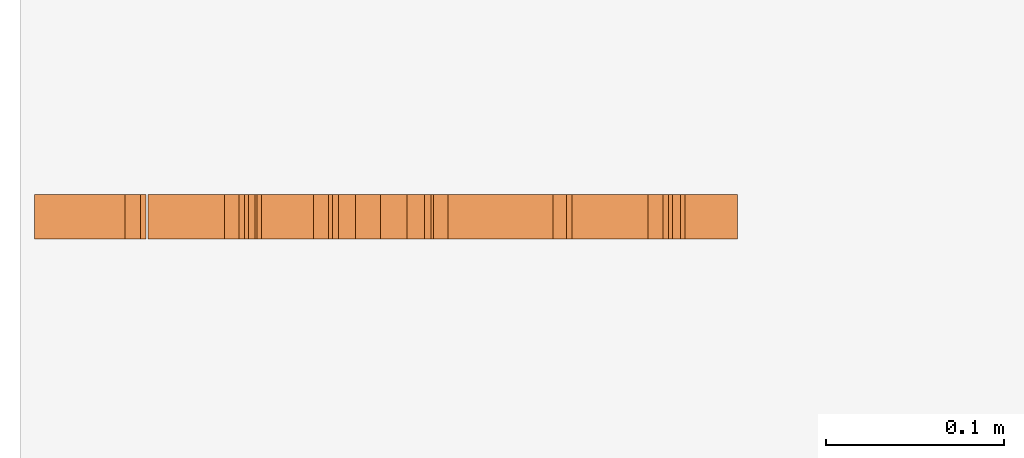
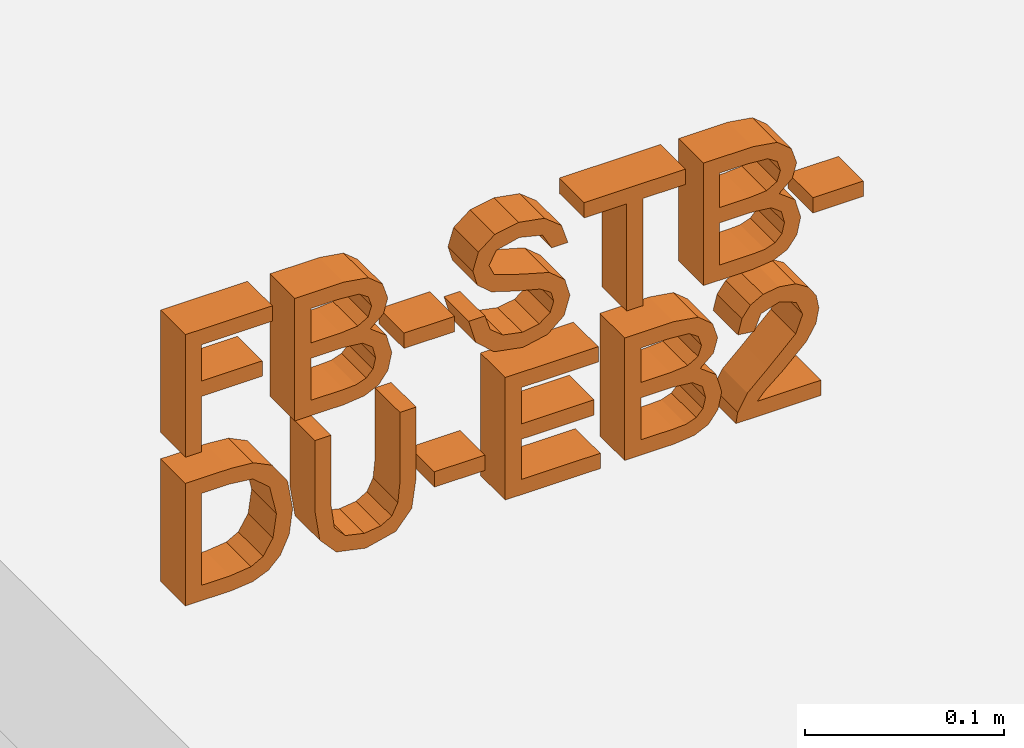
# Not in any storey, part 2 of 2: 1 proxy.
"""IFC4 model written with IfcOpenShell, lengths in metres."""

from ifc_helpers import new_model, entity, si_unit, converted_unit, derived_unit, direction, frame, origin, place, context, subcontext, project, spatial, indexed_curve, outline, extrude, type_object, element, save


model = new_model("IFC4")

# Units and contexts
model_context = context("Model", 3, precision=1e-05, world=origin(), true_north=direction((6.123031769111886e-17, 1.0)))
body_context = subcontext(model_context, "Body", "Model", "MODEL_VIEW")
ifc_project = project(units=[si_unit("LENGTHUNIT", "METRE"), si_unit("AREAUNIT", "SQUARE_METRE"), si_unit("VOLUMEUNIT", "CUBIC_METRE"), converted_unit("PLANEANGLEUNIT", "DEGREE", entity("IfcRatioMeasure", 0.017453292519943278), si_unit("PLANEANGLEUNIT", "RADIAN"), dimensions=[0, 0, 0, 0, 0, 0, 0]), si_unit("MASSUNIT", "GRAM", prefix="KILO"), derived_unit("MASSDENSITYUNIT", [(si_unit("MASSUNIT", "GRAM", prefix="KILO"), 1), (si_unit("LENGTHUNIT", "METRE"), -3)]), derived_unit("IONCONCENTRATIONUNIT", [(si_unit("MASSUNIT", "GRAM", prefix="KILO"), 1), (si_unit("LENGTHUNIT", "METRE"), -3)]), derived_unit("MOMENTOFINERTIAUNIT", [(si_unit("LENGTHUNIT", "METRE"), 4)]), si_unit("TIMEUNIT", "SECOND"), si_unit("FREQUENCYUNIT", "HERTZ"), si_unit("THERMODYNAMICTEMPERATUREUNIT", "DEGREE_CELSIUS"), derived_unit("THERMALTRANSMITTANCEUNIT", [(si_unit("MASSUNIT", "GRAM", prefix="KILO"), 1), (si_unit("THERMODYNAMICTEMPERATUREUNIT", "KELVIN"), -1), (si_unit("TIMEUNIT", "SECOND"), -3)]), derived_unit("THERMALCONDUCTANCEUNIT", [(si_unit("MASSUNIT", "GRAM", prefix="KILO"), 1), (si_unit("THERMODYNAMICTEMPERATUREUNIT", "KELVIN"), -1), (si_unit("TIMEUNIT", "SECOND"), -3), (si_unit("LENGTHUNIT", "METRE"), 1)]), derived_unit("VOLUMETRICFLOWRATEUNIT", [(si_unit("LENGTHUNIT", "METRE"), 3), (si_unit("TIMEUNIT", "SECOND"), -1)]), derived_unit("MASSFLOWRATEUNIT", [(si_unit("MASSUNIT", "GRAM", prefix="KILO"), 1), (si_unit("TIMEUNIT", "SECOND"), -1)]), derived_unit("ROTATIONALFREQUENCYUNIT", [(si_unit("TIMEUNIT", "SECOND"), -1)]), si_unit("ELECTRICCURRENTUNIT", "AMPERE"), si_unit("ELECTRICVOLTAGEUNIT", "VOLT"), si_unit("POWERUNIT", "WATT"), si_unit("FORCEUNIT", "NEWTON", prefix="KILO"), si_unit("ILLUMINANCEUNIT", "LUX"), si_unit("LUMINOUSFLUXUNIT", "LUMEN"), si_unit("LUMINOUSINTENSITYUNIT", "CANDELA"), derived_unit("USERDEFINED", [(si_unit("MASSUNIT", "GRAM", prefix="KILO"), -1), (si_unit("LENGTHUNIT", "METRE"), -2), (si_unit("TIMEUNIT", "SECOND"), 3), (si_unit("LUMINOUSFLUXUNIT", "LUMEN"), 1)]), derived_unit("USERDEFINED", [(si_unit("MASSUNIT", "GRAM", prefix="KILO"), 1), (si_unit("TIMEUNIT", "SECOND"), -3), (si_unit("LENGTHUNIT", "METRE"), 3), (si_unit("ELECTRICCURRENTUNIT", "AMPERE"), -2)]), derived_unit("SOUNDPOWERUNIT", [(si_unit("MASSUNIT", "GRAM", prefix="KILO"), 1), (si_unit("TIMEUNIT", "SECOND"), -3), (si_unit("LENGTHUNIT", "METRE"), 2)]), derived_unit("SOUNDPRESSUREUNIT", [(si_unit("MASSUNIT", "GRAM", prefix="KILO"), 1), (si_unit("LENGTHUNIT", "METRE"), -1), (si_unit("TIMEUNIT", "SECOND"), -2)]), derived_unit("LINEARVELOCITYUNIT", [(si_unit("LENGTHUNIT", "METRE"), 1), (si_unit("TIMEUNIT", "SECOND"), -1)]), si_unit("PRESSUREUNIT", "PASCAL"), derived_unit("USERDEFINED", [(si_unit("MASSUNIT", "GRAM", prefix="KILO"), 1), (si_unit("LENGTHUNIT", "METRE"), -2), (si_unit("TIMEUNIT", "SECOND"), -2)]), derived_unit("LINEARFORCEUNIT", [(si_unit("MASSUNIT", "GRAM", prefix="KILO"), 1), (si_unit("TIMEUNIT", "SECOND"), -2)]), derived_unit("PLANARFORCEUNIT", [(si_unit("MASSUNIT", "GRAM", prefix="KILO"), 1), (si_unit("LENGTHUNIT", "METRE"), -1), (si_unit("TIMEUNIT", "SECOND"), -2)]), derived_unit("SPECIFICHEATCAPACITYUNIT", [(si_unit("THERMODYNAMICTEMPERATUREUNIT", "KELVIN"), -1), (si_unit("LENGTHUNIT", "METRE"), 2), (si_unit("TIMEUNIT", "SECOND"), -2)]), derived_unit("HEATINGVALUEUNIT", [(si_unit("LENGTHUNIT", "METRE"), 2), (si_unit("TIMEUNIT", "SECOND"), -2)]), derived_unit("VAPORPERMEABILITYUNIT", [(si_unit("LENGTHUNIT", "METRE"), -1), (si_unit("TIMEUNIT", "SECOND"), 1)]), derived_unit("DYNAMICVISCOSITYUNIT", [(si_unit("MASSUNIT", "GRAM", prefix="KILO"), 1), (si_unit("TIMEUNIT", "SECOND"), -1), (si_unit("LENGTHUNIT", "METRE"), -1)]), derived_unit("THERMALEXPANSIONCOEFFICIENTUNIT", [(si_unit("THERMODYNAMICTEMPERATUREUNIT", "KELVIN"), -1)]), derived_unit("MODULUSOFELASTICITYUNIT", [(si_unit("MASSUNIT", "GRAM", prefix="KILO"), 1), (si_unit("LENGTHUNIT", "METRE"), -1), (si_unit("TIMEUNIT", "SECOND"), -2)]), derived_unit("ISOTHERMALMOISTURECAPACITYUNIT", [(si_unit("LENGTHUNIT", "METRE"), 3), (si_unit("MASSUNIT", "GRAM", prefix="KILO"), -1)]), derived_unit("MOISTUREDIFFUSIVITYUNIT", [(si_unit("TIMEUNIT", "SECOND"), -1), (si_unit("LENGTHUNIT", "METRE"), 2)])], contexts=[model_context])

# Site
site_placement = place(None, origin())
site = spatial("IfcSite", under=ifc_project, at=site_placement, Name="Default", CompositionType="ELEMENT")

# Proxy
building_element_proxy_type = type_object("IfcBuildingElementProxyType", Name="Modelltext:075mm Arial", PredefinedType="NOTDEFINED")
proxy_placement = place(site_placement, origin())
element("IfcBuildingElementProxy", 1, at=proxy_placement, inside=site, type_object=building_element_proxy_type, Name="Modelltext:075mm Arial", ObjectType="Modelltext:075mm Arial", PredefinedType="NOTDEFINED", context=body_context, shape_type="SweptSolid", body=[
    extrude(outline(indexed_curve([(-0.04379267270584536, -0.02283811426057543), (0.03154955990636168, -0.02283811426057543), (0.03154955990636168, 0.027782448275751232), (0.022131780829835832, 0.027782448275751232), (0.022131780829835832, -0.013420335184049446), (-0.00023544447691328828, -0.013420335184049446), (-0.00023544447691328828, 0.021896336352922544), (-0.009653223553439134, 0.021896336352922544), (-0.009653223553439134, -0.013420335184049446), (-0.04379267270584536, -0.013420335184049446), (-0.04379267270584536, -0.02283811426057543)], self_intersect=False)), frame((0.9405218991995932, 42.834392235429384, 2.1477994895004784), z_axis=(0.0, 1.0, 0.0), x_axis=(0.0, 0.0, 1.0)), (0.0, 0.0, 1.0), 0.025000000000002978),
    extrude(outline(indexed_curve([(-0.036518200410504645, -0.03960512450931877), (0.03882403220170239, -0.03960512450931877), (0.03882403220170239, -0.010855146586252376), (0.03660754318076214, 0.0032255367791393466), (0.029792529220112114, 0.011539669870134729), (0.02015402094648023, 0.014547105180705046), (0.011352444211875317, 0.01201791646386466), (0.004684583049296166, 0.004375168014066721), (-0.0023419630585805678, 0.013654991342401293), (-0.014059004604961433, 0.016901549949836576), (-0.024184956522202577, 0.01468506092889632), (-0.03139544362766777, 0.009194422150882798), (-0.0352214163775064, 0.0009998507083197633), (-0.036518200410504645, -0.011075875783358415), (-0.036518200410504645, -0.03960512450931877)], self_intersect=False), holes=[indexed_curve([(-0.027100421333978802, -0.030187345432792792), (-0.027100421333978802, -0.010873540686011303), (-0.02673253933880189, -0.003883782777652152), (-0.024681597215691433, 0.0020299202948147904), (-0.02049693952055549, 0.0059478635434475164), (-0.014150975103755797, 0.007483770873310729), (-0.006830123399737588, 0.005681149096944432), (-0.002461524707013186, -0.00015897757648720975), (-0.0012015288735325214, -0.011793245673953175), (-0.0012015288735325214, -0.030187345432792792), (-0.027100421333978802, -0.030187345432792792)], self_intersect=False), indexed_curve([(0.008216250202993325, -0.030187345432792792), (0.008216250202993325, -0.012988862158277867), (0.009025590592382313, -0.0029456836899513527), (0.01251127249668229, 0.0030967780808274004), (0.01864570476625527, 0.0051293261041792), (0.02478933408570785, 0.0032347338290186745), (0.02842216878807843, -0.0021915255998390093), (0.029406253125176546, -0.014294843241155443), (0.029406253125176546, -0.030187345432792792), (0.008216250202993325, -0.030187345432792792)], self_intersect=False)]), frame((1.0208589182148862, 42.834392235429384, 2.140525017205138), z_axis=(0.0, 1.0, 0.0), x_axis=(0.0, 0.0, 1.0)), (0.0, 0.0, 1.0), 0.025000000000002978),
    extrude(outline(indexed_curve([(-0.012500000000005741, -0.014715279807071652), (0.012499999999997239, -0.014715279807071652), (0.012499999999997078, 0.014715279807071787), (-0.012500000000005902, 0.014715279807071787), (-0.012500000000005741, -0.014715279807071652)], self_intersect=False)), frame((1.059539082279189, 42.84689223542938, 2.126374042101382), z_axis=(0.0, 0.0, 1.0), x_axis=(0.0, 1.0, 0.0)), (0.0, 0.0, 1.0), 0.009417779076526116),
    extrude(outline(indexed_curve([(-0.03029298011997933, 0.011054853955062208), (-0.020875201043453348, 0.011054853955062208), (-0.01784017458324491, 0.020481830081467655), (-0.010427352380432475, 0.02644151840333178), (0.0008666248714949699, 0.028713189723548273), (0.010707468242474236, 0.026993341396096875), (0.017062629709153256, 0.02226605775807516), (0.019150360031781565, 0.015947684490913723), (0.017586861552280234, 0.010070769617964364), (0.011185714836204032, 0.005794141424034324), (-0.0025270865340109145, 0.0021980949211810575), (-0.01728835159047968, -0.0024464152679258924), (-0.02529898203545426, -0.0094545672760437), (-0.0279385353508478, -0.018817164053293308), (-0.024673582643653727, -0.02947654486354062), (-0.015136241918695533, -0.036999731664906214), (-0.0011751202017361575, -0.03956570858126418), (0.013724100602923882, -0.0368801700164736), (0.023656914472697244, -0.02898910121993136), (0.027390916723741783, -0.01719848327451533), (0.017973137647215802, -0.01719848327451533), (0.012638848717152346, -0.0268737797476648), (-0.0008072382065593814, -0.030147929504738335), (-0.014290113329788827, -0.02691056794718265), (-0.018520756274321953, -0.019093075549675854), (-0.0155225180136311, -0.012563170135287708), (-0.0001450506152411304, -0.007302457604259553), (0.01652000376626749, -0.0025751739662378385), (0.02563428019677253, 0.005058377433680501), (0.02856813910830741, 0.01570856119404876), (0.025192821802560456, 0.026974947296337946), (0.015480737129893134, 0.03519710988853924), (0.0012345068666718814, 0.03813096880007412), (-0.015586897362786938, 0.03496718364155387), (-0.02622788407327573, 0.025439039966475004), (-0.03029298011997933, 0.011054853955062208)], self_intersect=False)), frame((1.1127878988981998, 42.834392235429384, 2.140960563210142), z_axis=(0.0, 1.0, 0.0), x_axis=(1.0, 0.0, 0.0)), (0.0, 0.0, 1.0), 0.025000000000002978),
    extrude(outline(indexed_curve([(-0.05179778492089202, 0.004708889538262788), (-0.05179778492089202, -0.004708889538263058), (0.014126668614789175, -0.004708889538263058), (0.014126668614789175, -0.029430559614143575), (0.023544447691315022, -0.029430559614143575), (0.023544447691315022, 0.02943055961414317), (0.014126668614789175, 0.02943055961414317), (0.014126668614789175, 0.004708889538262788), (-0.05179778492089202, 0.004708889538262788)], self_intersect=False)), frame((1.1790271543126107, 42.834392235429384, 2.1558046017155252), z_axis=(0.0, -1.0, 0.0), x_axis=(0.0, 0.0, 1.0)), (0.0, 0.0, -1.0), 0.025000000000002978),
    extrude(outline(indexed_curve([(-0.036518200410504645, -0.0396051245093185), (0.03882403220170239, -0.0396051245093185), (0.03882403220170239, -0.01085514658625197), (0.03660754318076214, 0.0032255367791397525), (0.029792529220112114, 0.011539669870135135), (0.02015402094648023, 0.014547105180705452), (0.011352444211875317, 0.012017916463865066), (0.004684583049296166, 0.004375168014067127), (-0.0023419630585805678, 0.013654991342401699), (-0.014059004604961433, 0.01690154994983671), (-0.024184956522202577, 0.014685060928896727), (-0.03139544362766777, 0.009194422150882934), (-0.0352214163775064, 0.0009998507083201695), (-0.036518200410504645, -0.01107587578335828), (-0.036518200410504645, -0.0396051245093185)], self_intersect=False), holes=[indexed_curve([(0.008216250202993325, -0.03018734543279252), (0.008216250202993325, -0.012988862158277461), (0.009025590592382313, -0.002945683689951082), (0.01251127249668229, 0.0030967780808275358), (0.01864570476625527, 0.005129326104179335), (0.02478933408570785, 0.003234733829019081), (0.02842216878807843, -0.002191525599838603), (0.029406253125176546, -0.014294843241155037), (0.029406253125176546, -0.03018734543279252), (0.008216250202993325, -0.03018734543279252)], self_intersect=False), indexed_curve([(-0.027100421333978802, -0.03018734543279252), (-0.027100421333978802, -0.010873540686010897), (-0.02673253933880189, -0.0038837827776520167), (-0.024681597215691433, 0.0020299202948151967), (-0.02049693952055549, 0.005947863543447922), (-0.014150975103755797, 0.007483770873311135), (-0.006830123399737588, 0.005681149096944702), (-0.002461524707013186, -0.0001589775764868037), (-0.0012015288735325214, -0.011793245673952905), (-0.0012015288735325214, -0.03018734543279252), (-0.027100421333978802, -0.03018734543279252)], self_intersect=False)]), frame((1.2586578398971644, 42.834392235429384, 2.140525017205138), z_axis=(0.0, 1.0, 0.0), x_axis=(0.0, 0.0, 1.0)), (0.0, 0.0, 1.0), 0.025000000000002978),
    extrude(outline(indexed_curve([(-0.01250000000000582, -0.014715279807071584), (0.01249999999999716, -0.014715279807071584), (0.01249999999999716, 0.014715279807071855), (-0.01250000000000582, 0.014715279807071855), (-0.01250000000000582, -0.014715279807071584)], self_intersect=False)), frame((1.2973380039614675, 42.84689223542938, 2.126374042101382), z_axis=(0.0, 0.0, 1.0), x_axis=(0.0, 1.0, 0.0)), (0.0, 0.0, 1.0), 0.009417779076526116),
    extrude(outline(indexed_curve([(-0.03575046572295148, -0.03902844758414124), (0.039591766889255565, -0.03902844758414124), (0.039591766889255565, -0.013037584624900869), (0.03850651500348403, 0.00040850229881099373), (0.03311704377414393, 0.0114817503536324), (0.02024117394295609, 0.020402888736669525), (0.002325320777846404, 0.023364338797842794), (-0.012877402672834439, 0.02135938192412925), (-0.023849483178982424, 0.016209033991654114), (-0.030682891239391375, 0.009329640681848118), (-0.03446287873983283, 0.00032572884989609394), (-0.03575046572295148, -0.011786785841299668), (-0.03575046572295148, -0.03902844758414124)], self_intersect=False), holes=[indexed_curve([(-0.02633268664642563, -0.02961066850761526), (-0.02633268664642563, -0.01294561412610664), (-0.024971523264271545, -0.0008239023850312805), (-0.021127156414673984, 0.006165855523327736), (-0.011773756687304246, 0.011895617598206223), (0.002472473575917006, 0.013946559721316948), (0.020314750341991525, 0.009927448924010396), (0.02866567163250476, 0.00015098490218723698), (0.03017398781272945, -0.013203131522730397), (0.03017398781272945, -0.02961066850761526), (-0.02633268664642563, -0.02961066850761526)], self_intersect=False)]), frame((0.956712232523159, 42.834392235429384, 2.0482761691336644), z_axis=(0.0, 1.0, 0.0), x_axis=(0.0, 0.0, 1.0)), (0.0, 0.0, 1.0), 0.025000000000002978),
    extrude(outline(indexed_curve([(0.019305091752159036, -0.04688825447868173), (0.028722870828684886, -0.04688825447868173), (0.028722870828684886, -0.003422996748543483), (0.02616609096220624, 0.014594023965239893), (0.01695064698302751, 0.02544654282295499), (-0.000523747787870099, 0.029631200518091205), (-0.017731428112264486, 0.02598916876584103), (-0.02727796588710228, 0.015440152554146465), (-0.030138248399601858, -0.003422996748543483), (-0.030138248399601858, -0.04688825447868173), (-0.020720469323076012, -0.04688825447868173), (-0.020720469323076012, -0.0037540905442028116), (-0.018862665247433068, 0.01060250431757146), (-0.012479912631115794, 0.01771182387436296), (-0.0014066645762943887, 0.02021342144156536), (0.008172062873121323, 0.018976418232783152), (0.014541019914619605, 0.015265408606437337), (0.018114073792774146, 0.008036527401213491), (0.019305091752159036, -0.0037540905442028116), (0.019305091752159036, -0.04688825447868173)], self_intersect=False)), frame((1.0231642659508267, 42.834392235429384, 2.0409796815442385), z_axis=(0.0, 1.0, 0.0), x_axis=(1.0, 0.0, 0.0)), (0.0, 0.0, 1.0), 0.025000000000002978),
    extrude(outline(indexed_curve([(-0.012500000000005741, -0.014715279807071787), (0.012499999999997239, -0.014715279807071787), (0.012499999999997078, 0.014715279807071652), (-0.012500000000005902, 0.014715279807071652), (-0.012500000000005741, -0.014715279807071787)], self_intersect=False)), frame((1.0771974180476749, 42.84689223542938, 2.0348929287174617), z_axis=(0.0, 0.0, 1.0), x_axis=(0.0, 1.0, 0.0)), (0.0, 0.0, 1.0), 0.009417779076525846),
    extrude(outline(indexed_curve([(-0.038063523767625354, -0.030019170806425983), (0.03727870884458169, -0.030019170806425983), (0.03727870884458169, 0.0241330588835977), (0.027860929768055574, 0.0241330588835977), (0.027860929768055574, -0.020601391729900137), (0.005493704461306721, -0.020601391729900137), (0.005493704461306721, 0.021778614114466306), (-0.003924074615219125, 0.021778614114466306), (-0.003924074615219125, -0.020601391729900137), (-0.028645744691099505, -0.020601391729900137), (-0.028645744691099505, 0.025310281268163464), (-0.038063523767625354, 0.025310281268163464), (-0.038063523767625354, -0.030019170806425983)], self_intersect=False)), frame((1.13370409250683, 42.834392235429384, 2.0505892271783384), z_axis=(0.0, 1.0, 0.0), x_axis=(0.0, 0.0, 1.0)), (0.0, 0.0, 1.0), 0.025000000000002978),
    extrude(outline(indexed_curve([(-0.036518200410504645, -0.039605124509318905), (0.03882403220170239, -0.039605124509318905), (0.03882403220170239, -0.010855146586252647), (0.03660754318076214, 0.003225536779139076), (0.029792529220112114, 0.011539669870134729), (0.02015402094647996, 0.014547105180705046), (0.011352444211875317, 0.01201791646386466), (0.0046845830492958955, 0.004375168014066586), (-0.0023419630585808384, 0.013654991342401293), (-0.014059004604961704, 0.016901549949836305), (-0.024184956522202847, 0.01468506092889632), (-0.03139544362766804, 0.009194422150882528), (-0.03522141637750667, 0.0009998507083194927), (-0.036518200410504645, -0.011075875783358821), (-0.036518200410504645, -0.039605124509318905)], self_intersect=False), holes=[indexed_curve([(0.008216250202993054, -0.030187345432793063), (0.008216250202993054, -0.012988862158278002), (0.009025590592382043, -0.0029456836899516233), (0.01251127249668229, 0.00309677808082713), (0.01864570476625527, 0.005129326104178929), (0.02478933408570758, 0.003234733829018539), (0.02842216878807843, -0.0021915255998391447), (0.029406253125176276, -0.014294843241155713), (0.029406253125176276, -0.030187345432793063), (0.008216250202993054, -0.030187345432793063)], self_intersect=False), indexed_curve([(-0.027100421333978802, -0.030187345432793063), (-0.027100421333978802, -0.010873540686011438), (-0.02673253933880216, -0.003883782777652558), (-0.024681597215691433, 0.0020299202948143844), (-0.02049693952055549, 0.005947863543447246), (-0.014150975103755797, 0.0074837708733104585), (-0.006830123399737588, 0.005681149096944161), (-0.002461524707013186, -0.00015897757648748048), (-0.0012015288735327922, -0.011793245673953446), (-0.0012015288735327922, -0.030187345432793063), (-0.027100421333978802, -0.030187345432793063)], self_intersect=False)]), frame((1.2127461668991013, 42.834392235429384, 2.0490439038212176), z_axis=(0.0, 1.0, 0.0), x_axis=(0.0, 0.0, 1.0)), (0.0, 0.0, 1.0), 0.025000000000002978),
    extrude(outline(indexed_curve([(0.03387521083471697, -0.02428940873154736), (0.04329298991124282, -0.02428940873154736), (0.04329298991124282, 0.0251539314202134), (0.036799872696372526, 0.02414225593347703), (0.026802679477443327, 0.01842169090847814), (0.01588578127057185, 0.006631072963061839), (0.00019561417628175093, -0.009629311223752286), (-0.010472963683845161, -0.013694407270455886), (-0.019108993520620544, -0.009859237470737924), (-0.022631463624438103, 0.0001563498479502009), (-0.01919176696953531, 0.010595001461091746), (-0.0096820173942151, 0.014558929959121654), (-0.010859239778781, 0.0239767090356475), (-0.019968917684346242, 0.02169354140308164), (-0.026622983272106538, 0.016757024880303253), (-0.030692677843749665, 0.00942467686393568), (-0.03204924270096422, -4.598524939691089e-05), (-0.030540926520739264, -0.00958562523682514), (-0.02601597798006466, -0.016904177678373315), (-0.019256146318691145, -0.021560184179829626), (-0.011043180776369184, -0.02311218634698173), (-0.0021128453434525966, -0.021438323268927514), (0.007120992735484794, -0.015874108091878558), (0.020024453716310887, -0.0023820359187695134), (0.029083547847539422, 0.008452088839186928), (0.03387521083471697, 0.012701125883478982), (0.03387521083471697, -0.02428940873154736)], self_intersect=False)), frame((1.2630422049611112, 42.83439223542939, 2.0558186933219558), z_axis=(0.0, 1.0, 0.0), x_axis=(0.0, 0.0, -1.0)), (0.0, 0.0, 1.0), 0.025000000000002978),
])

save(model, "model.ifc")
